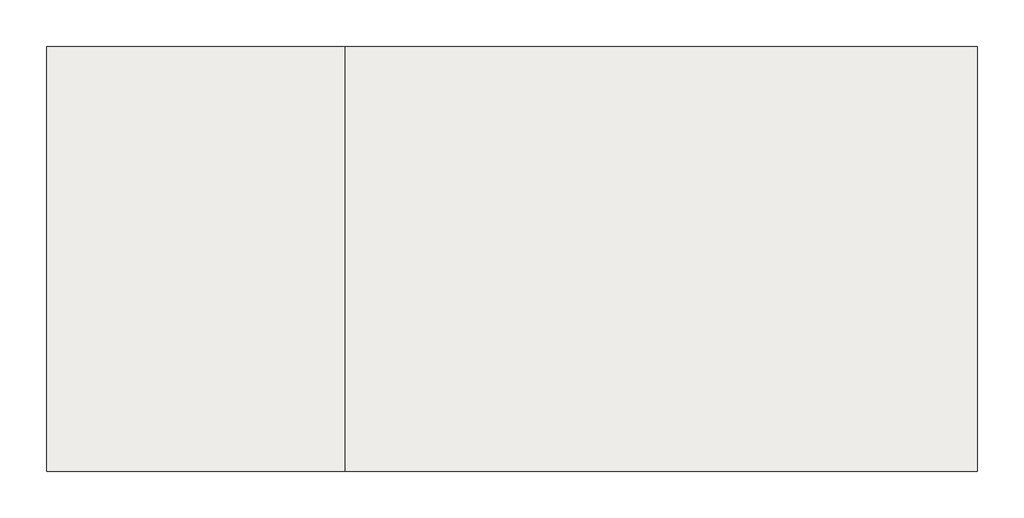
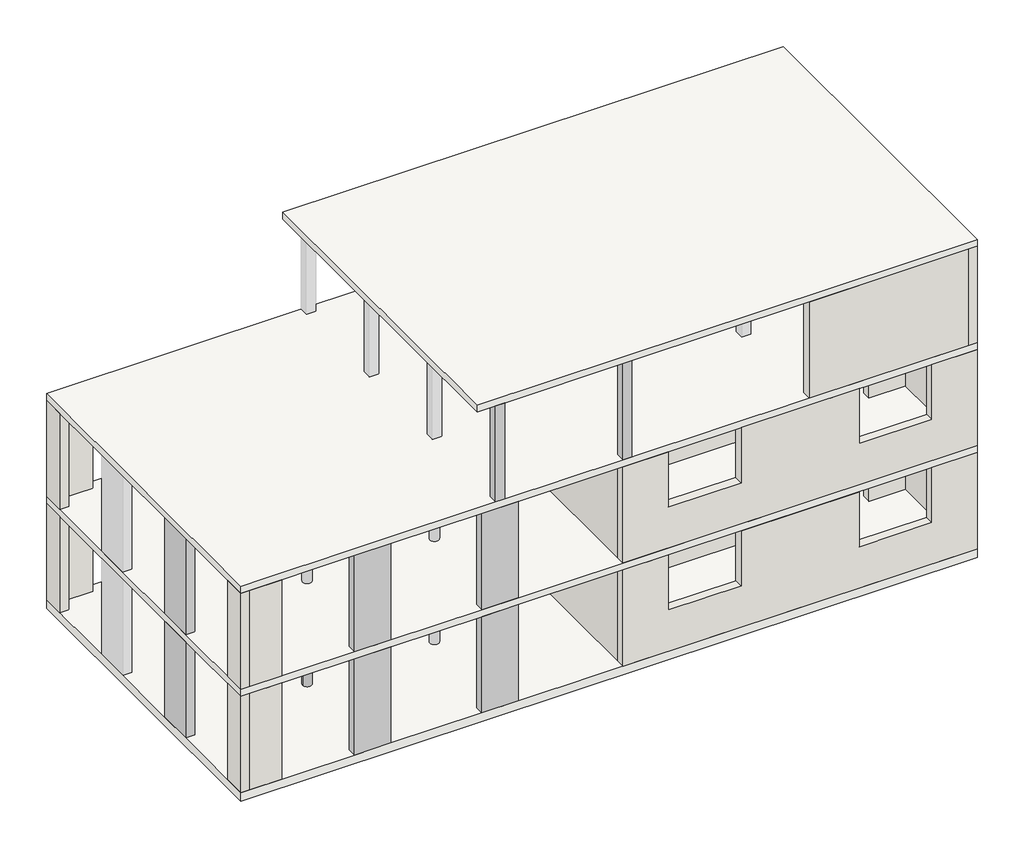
# Not in any storey, part 1 of 2: 25 walls, 9 columns, 4 slabs.
"""IFC4 building model written with IfcOpenShell, lengths in millimetres."""

from ifc_helpers import new_model, si_unit, point, frame, frame_2d, origin, origin_with_axes, place, context, project, spatial, polyline, circle_curve, trimmed, segment, composite_curve, outline, extrude, faceted_brep, element, save

model = new_model("IFC4")

# Units and contexts
model_context = context("Model", 3, world=origin())
ifc_project = project(units=[si_unit("LENGTHUNIT", "METRE", prefix="MILLI")], contexts=[model_context])

# Site, building
site = spatial("IfcSite", under=ifc_project)
building = spatial("IfcBuilding", under=site)

# Columns
placement = place(None, origin())
element("IfcColumn", 1, ObjectType="STB Stütze - rund : STB ø250", at=placement, inside=building, context=model_context, shape_type="SweptSolid", body=[
    extrude(outline(composite_curve([segment(trimmed(circle_curve(frame_2d((3500.0, -6000.0)), 125.0), [point((3375.0, -6000.0))], [point((3625.0, -6000.0))], False, "CARTESIAN"), True, "CONTINUOUS"), segment(trimmed(circle_curve(frame_2d((3500.0, -6000.0)), 125.0), [point((3625.0, -6000.0))], [point((3375.0, -6000.0))], False, "CARTESIAN"), True, "CONTINUOUS")], self_intersect=False)), origin_with_axes(), (0.0, 0.0, 1.0), 2800.0),
])
element("IfcColumn", 2, ObjectType="STB Stütze - rechteckig : STB 1000 x 250", at=placement, inside=building, context=model_context, shape_type="SweptSolid", body=[
    extrude(outline(polyline([(-125.0, -5500.0), (125.0, -5500.0), (125.0, -6500.0), (-125.0, -6500.0), (-125.0, -5500.0)])), origin_with_axes(), (0.0, 0.0, 1.0), 2800.0),
])
element("IfcColumn", 3, ObjectType="STB Stütze - rechteckig : STB 1000 x 250", at=placement, inside=building, context=model_context, shape_type="SweptSolid", body=[
    extrude(outline(polyline([(3000.0, -9125.0), (3000.0, -8875.0), (4000.0, -8875.0), (4000.0, -9125.0), (3000.0, -9125.0)])), origin_with_axes(), (0.0, 0.0, 1.0), 2800.0),
])
element("IfcColumn", 4, ObjectType="STB Stütze - rechteckig : STB 1000 x 250", at=placement, inside=building, context=model_context, shape_type="SweptSolid", body=[
    extrude(outline(polyline([(6500.0, -9125.0), (6500.0, -8875.0), (7500.0, -8875.0), (7500.0, -9125.0), (6500.0, -9125.0)])), origin_with_axes(), (0.0, 0.0, 1.0), 2800.0),
])
element("IfcColumn", 5, ObjectType="STB Stütze - rechteckig : STB 1000 x 250", at=placement, inside=building, context=model_context, shape_type="SweptSolid", body=[
    extrude(outline(polyline([(-125.0, -5500.0), (125.0, -5500.0), (125.0, -6500.0), (-125.0, -6500.0), (-125.0, -5500.0)])), frame((0.0, 0.0, 3000.0), z_axis=(0.0, 0.0, 1.0), x_axis=(1.0, 0.0, 0.0)), (0.0, 0.0, 1.0), 2800.0),
])
element("IfcColumn", 6, ObjectType="STB Stütze - rechteckig : STB 1000 x 250", at=placement, inside=building, context=model_context, shape_type="SweptSolid", body=[
    extrude(outline(polyline([(3000.0, -9125.0), (3000.0, -8875.0), (4000.0, -8875.0), (4000.0, -9125.0), (3000.0, -9125.0)])), frame((0.0, 0.0, 3000.0), z_axis=(0.0, 0.0, 1.0), x_axis=(1.0, 0.0, 0.0)), (0.0, 0.0, 1.0), 2800.0),
])
element("IfcColumn", 7, ObjectType="STB Stütze - rechteckig : STB 1000 x 250", at=placement, inside=building, context=model_context, shape_type="SweptSolid", body=[
    extrude(outline(polyline([(6500.0, -9125.0), (6500.0, -8875.0), (7500.0, -8875.0), (7500.0, -9125.0), (6500.0, -9125.0)])), frame((0.0, 0.0, 3000.0), z_axis=(0.0, 0.0, 1.0), x_axis=(1.0, 0.0, 0.0)), (0.0, 0.0, 1.0), 2800.0),
])
element("IfcColumn", 8, ObjectType="STB Stütze - rechteckig : STB 250 x 250", at=placement, inside=building, context=model_context, shape_type="SweptSolid", body=[
    extrude(outline(polyline([(7125.0, -8875.0), (7125.0, -9125.0), (6875.0, -9125.0), (6875.0, -8875.0), (7125.0, -8875.0)])), frame((0.0, 0.0, 6000.0), z_axis=(0.0, 0.0, 1.0), x_axis=(1.0, 0.0, 0.0)), (0.0, 0.0, 1.0), 2800.0),
])
element("IfcColumn", 9, ObjectType="STB Stütze - rechteckig : STB 250 x 250", at=placement, inside=building, context=model_context, shape_type="SweptSolid", body=[
    extrude(outline(polyline([(10625.0, -8875.0), (10625.0, -9125.0), (10375.0, -9125.0), (10375.0, -8875.0), (10625.0, -8875.0)])), frame((0.0, 0.0, 6000.0), z_axis=(0.0, 0.0, 1.0), x_axis=(1.0, 0.0, 0.0)), (0.0, 0.0, 1.0), 2800.0),
])

# Slabs
element("IfcSlab", 10, ObjectType="STB 200", at=placement, inside=building, context=model_context, shape_type="Brep", body=[
    faceted_brep([(20125.0, 125.0, 2800.0), (20125.0, -9125.0, 2800.0), (7500.0, -9125.0, 2800.0), (6500.0, -9125.0, 2800.0), (4000.0, -9125.0, 2800.0), (3000.0, -9125.0, 2800.0), (-125.0, -9125.0, 2800.0), (-125.0, -6500.0, 2800.0), (-125.0, -5500.0, 2800.0), (-125.0, -3500.0, 2800.0), (-125.0, -2500.0, 2800.0), (-125.0, 125.0, 2800.0), (3000.0, 125.0, 2800.0), (4000.0, 125.0, 2800.0), (6500.0, 125.0, 2800.0), (7500.0, 125.0, 2800.0), (19875.0, -125.0, 2800.0), (16875.0, -125.0, 2800.0), (16875.0, -2325.0, 2800.0), (19875.0, -2325.0, 2800.0), (20125.0, 125.0, 3000.0), (7500.0, 125.0, 3000.0), (6500.0, 125.0, 3000.0), (4000.0, 125.0, 3000.0), (3000.0, 125.0, 3000.0), (-125.0, 125.0, 3000.0), (-125.0, -2500.0, 3000.0), (-125.0, -3500.0, 3000.0), (-125.0, -5500.0, 3000.0), (-125.0, -6500.0, 3000.0), (-125.0, -9125.0, 3000.0), (3000.0, -9125.0, 3000.0), (4000.0, -9125.0, 3000.0), (6500.0, -9125.0, 3000.0), (7500.0, -9125.0, 3000.0), (20125.0, -9125.0, 3000.0), (16875.0, -125.0, 3000.0), (19875.0, -125.0, 3000.0), (19875.0, -2325.0, 3000.0), (16875.0, -2325.0, 3000.0)], [[[0, 1, 2, 3, 4, 5, 6, 7, 8, 9, 10, 11, 12, 13, 14, 15], [16, 17, 18, 19]], [[20, 21, 22, 23, 24, 25, 26, 27, 28, 29, 30, 31, 32, 33, 34, 35], [36, 37, 38, 39]], [[1, 0, 20, 35]], [[6, 5, 4, 3, 2, 1, 35, 34, 33, 32, 31, 30]], [[11, 10, 9, 8, 7, 6, 30, 29, 28, 27, 26, 25]], [[0, 15, 14, 13, 12, 11, 25, 24, 23, 22, 21, 20]], [[16, 37, 36, 17]], [[17, 36, 39, 18]], [[18, 39, 38, 19]], [[37, 16, 19, 38]]]),
])
element("IfcSlab", 11, ObjectType="STB 200", at=placement, inside=building, context=model_context, shape_type="Brep", body=[
    faceted_brep([(20125.0, -9125.0, 5800.0), (7500.0, -9125.0, 5800.0), (6500.0, -9125.0, 5800.0), (4000.0, -9125.0, 5800.0), (3000.0, -9125.0, 5800.0), (-125.0, -9125.0, 5800.0), (-125.0, -6500.0, 5800.0), (-125.0, -5500.0, 5800.0), (-125.0, -3500.0, 5800.0), (-125.0, -2500.0, 5800.0), (-125.0, 125.0, 5800.0), (3000.0, 125.0, 5800.0), (4000.0, 125.0, 5800.0), (6500.0, 125.0, 5800.0), (7500.0, 125.0, 5800.0), (20125.0, 125.0, 5800.0), (19875.0, -125.0, 5800.0), (16875.0, -125.0, 5800.0), (16875.0, -2325.0, 5800.0), (19875.0, -2325.0, 5800.0), (-125.0, -9125.0, 6000.0), (6875.0, -9125.0, 6000.0), (7125.0, -9125.0, 6000.0), (10375.0, -9125.0, 6000.0), (10625.0, -9125.0, 6000.0), (20125.0, -9125.0, 6000.0), (20125.0, 125.0, 6000.0), (10625.0, 125.0, 6000.0), (10375.0, 125.0, 6000.0), (7125.0, 125.0, 6000.0), (6875.0, 125.0, 6000.0), (-125.0, 125.0, 6000.0), (16875.0, -125.0, 6000.0), (19875.0, -125.0, 6000.0), (19875.0, -2325.0, 6000.0), (16875.0, -2325.0, 6000.0)], [[[0, 1, 2, 3, 4, 5, 6, 7, 8, 9, 10, 11, 12, 13, 14, 15], [16, 17, 18, 19]], [[20, 21, 22, 23, 24, 25, 26, 27, 28, 29, 30, 31], [32, 33, 34, 35]], [[5, 4, 3, 2, 1, 0, 25, 24, 23, 22, 21, 20]], [[10, 9, 8, 7, 6, 5, 20, 31]], [[15, 14, 13, 12, 11, 10, 31, 30, 29, 28, 27, 26]], [[0, 15, 26, 25]], [[16, 33, 32, 17]], [[17, 32, 35, 18]], [[18, 35, 34, 19]], [[33, 16, 19, 34]]]),
])
element("IfcSlab", 12, ObjectType="STB 200", at=placement, inside=building, context=model_context, shape_type="Brep", body=[
    faceted_brep([(6375.0, 125.0, 8800.0), (6875.0, 125.0, 8800.0), (7125.0, 125.0, 8800.0), (10375.0, 125.0, 8800.0), (10625.0, 125.0, 8800.0), (20125.0, 125.0, 8800.0), (20125.0, -9125.0, 8800.0), (10625.0, -9125.0, 8800.0), (10375.0, -9125.0, 8800.0), (7125.0, -9125.0, 8800.0), (6875.0, -9125.0, 8800.0), (6375.0, -9125.0, 8800.0), (6375.0, 125.0, 9000.0), (6375.0, -9125.0, 9000.0), (20125.0, -9125.0, 9000.0), (20125.0, 125.0, 9000.0)], [[[0, 1, 2, 3, 4, 5, 6, 7, 8, 9, 10, 11]], [[12, 13, 14, 15]], [[5, 4, 3, 2, 1, 0, 12, 15]], [[6, 5, 15, 14]], [[11, 10, 9, 8, 7, 6, 14, 13]], [[0, 11, 13, 12]]]),
])
element("IfcSlab", 13, ObjectType="STB 250", at=placement, inside=building, context=model_context, shape_type="Brep", body=[
    faceted_brep([(20125.0, 125.0, -250.0), (20125.0, -9125.0, -250.0), (-125.0, -9125.0, -250.0), (-125.0, 125.0, -250.0), (20125.0, 125.0, 0.0), (7500.0, 125.0, 0.0), (6500.0, 125.0, 0.0), (4000.0, 125.0, 0.0), (3000.0, 125.0, 0.0), (-125.0, 125.0, 0.0), (-125.0, -2500.0, 0.0), (-125.0, -3500.0, 0.0), (-125.0, -5500.0, 0.0), (-125.0, -6500.0, 0.0), (-125.0, -9125.0, 0.0), (3000.0, -9125.0, 0.0), (4000.0, -9125.0, 0.0), (6500.0, -9125.0, 0.0), (7500.0, -9125.0, 0.0), (20125.0, -9125.0, 0.0)], [[[0, 1, 2, 3]], [[4, 5, 6, 7, 8, 9, 10, 11, 12, 13, 14, 15, 16, 17, 18, 19]], [[1, 0, 4, 19]], [[2, 1, 19, 18, 17, 16, 15, 14]], [[3, 2, 14, 13, 12, 11, 10, 9]], [[0, 3, 9, 8, 7, 6, 5, 4]]]),
])

# Walls
element("IfcWall", 14, ObjectType="STB 250", at=placement, inside=building, context=model_context, shape_type="SweptSolid", body=[
    extrude(outline(polyline([(1000.0, -9125.0), (125.0, -9125.0), (125.0, -8875.0), (1000.0, -8875.0), (1000.0, -9125.0)])), origin_with_axes(), (0.0, 0.0, 1.0), 2800.0),
])
element("IfcWall", 15, ObjectType="STB 250", at=placement, inside=building, context=model_context, shape_type="Brep", body=[
    faceted_brep([(125.0, -9125.0, 0.0), (125.0, -8875.0, 0.0), (125.0, -8500.0, 0.0), (125.0, -8500.0, 2800.0), (125.0, -8875.0, 2800.0), (125.0, -9125.0, 2800.0), (-125.0, -9125.0, 0.0), (-125.0, -9125.0, 2800.0), (-125.0, -8500.0, 2800.0), (-125.0, -8500.0, 0.0)], [[[0, 1, 2, 3, 4, 5]], [[6, 7, 8, 9]], [[2, 1, 0, 6, 9]], [[3, 2, 9, 8]], [[0, 5, 7, 6]], [[5, 4, 3, 8, 7]]]),
])
element("IfcWall", 16, ObjectType="STB 250", at=placement, inside=building, context=model_context, shape_type="SweptSolid", body=[
    extrude(outline(polyline([(1000.0, -125.0), (125.0, -125.0), (125.0, 125.0), (1000.0, 125.0), (1000.0, -125.0)])), origin_with_axes(), (0.0, 0.0, 1.0), 2800.0),
])
element("IfcWall", 17, ObjectType="STB 250", at=placement, inside=building, context=model_context, shape_type="Brep", body=[
    faceted_brep([(-125.0, 125.0, 0.0), (-125.0, -500.0, 0.0), (-125.0, -500.0, 2800.0), (-125.0, 125.0, 2800.0), (125.0, 125.0, 0.0), (125.0, 125.0, 2800.0), (125.0, -125.0, 2800.0), (125.0, -500.0, 2800.0), (125.0, -500.0, 0.0), (125.0, -125.0, 0.0)], [[[0, 1, 2, 3]], [[4, 5, 6, 7, 8, 9]], [[1, 0, 4, 9, 8]], [[2, 1, 8, 7]], [[0, 3, 5, 4]], [[3, 2, 7, 6, 5]]]),
])
element("IfcWall", 18, ObjectType="STB 250", at=placement, inside=building, context=model_context, shape_type="Brep", body=[
    faceted_brep([(10375.0, -9125.0, 0.0), (20125.0, -9125.0, 0.0), (20125.0, -9125.0, 2800.0), (18875.0, -9125.0, 2800.0), (18875.0, -9125.0, 1200.0), (16875.0, -9125.0, 1200.0), (16875.0, -9125.0, 2800.0), (13625.0, -9125.0, 2800.0), (13625.0, -9125.0, 1200.0), (11625.0, -9125.0, 1200.0), (11625.0, -9125.0, 2800.0), (10375.0, -9125.0, 2800.0), (20125.0, -8875.0, 0.0), (19875.0, -8875.0, 0.0), (10625.0, -8875.0, 0.0), (10375.0, -8875.0, 0.0), (10375.0, -8875.0, 2800.0), (10625.0, -8875.0, 2800.0), (11625.0, -8875.0, 2800.0), (11625.0, -8875.0, 1200.0), (13625.0, -8875.0, 1200.0), (13625.0, -8875.0, 2800.0), (16875.0, -8875.0, 2800.0), (16875.0, -8875.0, 1200.0), (18875.0, -8875.0, 1200.0), (18875.0, -8875.0, 2800.0), (19875.0, -8875.0, 2800.0), (20125.0, -8875.0, 2800.0)], [[[0, 1, 2, 3, 4, 5, 6, 7, 8, 9, 10, 11]], [[12, 13, 14, 15, 16, 17, 18, 19, 20, 21, 22, 23, 24, 25, 26, 27]], [[1, 0, 15, 14, 13, 12]], [[2, 1, 12, 27]], [[0, 11, 16, 15]], [[2, 27, 26, 25, 3]], [[16, 11, 10, 18, 17]], [[6, 22, 21, 7]], [[24, 4, 3, 25]], [[4, 24, 23, 5]], [[5, 23, 22, 6]], [[20, 8, 7, 21]], [[8, 20, 19, 9]], [[9, 19, 18, 10]]]),
])
element("IfcWall", 19, ObjectType="STB 250", at=placement, inside=building, context=model_context, shape_type="Brep", body=[
    faceted_brep([(20125.0, -8875.0, 2800.0), (20125.0, -8875.0, 0.0), (20125.0, -5100.0, 0.0), (20125.0, -5100.0, 2600.0), (20125.0, -3900.0, 2600.0), (20125.0, -3900.0, 0.0), (20125.0, 125.0, 0.0), (20125.0, 125.0, 2800.0), (19875.0, -8875.0, 0.0), (19875.0, -8875.0, 2800.0), (19875.0, -6125.0, 2800.0), (19875.0, -5875.0, 2800.0), (19875.0, -3125.0, 2800.0), (19875.0, -2875.0, 2800.0), (19875.0, -125.0, 2800.0), (19875.0, 125.0, 2800.0), (19875.0, 125.0, 0.0), (19875.0, -125.0, 0.0), (19875.0, -2875.0, 0.0), (19875.0, -3125.0, 0.0), (19875.0, -3900.0, 0.0), (19875.0, -3900.0, 2600.0), (19875.0, -5100.0, 2600.0), (19875.0, -5100.0, 0.0), (19875.0, -5875.0, 0.0), (19875.0, -6125.0, 0.0)], [[[0, 1, 2, 3, 4, 5, 6, 7]], [[8, 9, 10, 11, 12, 13, 14, 15, 16, 17, 18, 19, 20, 21, 22, 23, 24, 25]], [[1, 8, 25, 24, 23, 2]], [[16, 6, 5, 20, 19, 18, 17]], [[1, 0, 9, 8]], [[7, 6, 16, 15]], [[4, 21, 20, 5]], [[22, 3, 2, 23]], [[21, 4, 3, 22]], [[0, 7, 15, 14, 13, 12, 11, 10, 9]]]),
])
element("IfcWall", 20, ObjectType="STB 250", at=placement, inside=building, context=model_context, shape_type="Brep", body=[
    faceted_brep([(19875.0, 125.0, 0.0), (10375.0, 125.0, 0.0), (10375.0, 125.0, 2800.0), (12375.0, 125.0, 2800.0), (12375.0, 125.0, 1200.0), (14375.0, 125.0, 1200.0), (14375.0, 125.0, 2800.0), (19875.0, 125.0, 2800.0), (10375.0, -125.0, 0.0), (10625.0, -125.0, 0.0), (15375.0, -125.0, 0.0), (15625.0, -125.0, 0.0), (19875.0, -125.0, 0.0), (19875.0, -125.0, 2800.0), (15625.0, -125.0, 2800.0), (15375.0, -125.0, 2800.0), (14375.0, -125.0, 2800.0), (14375.0, -125.0, 1200.0), (12375.0, -125.0, 1200.0), (12375.0, -125.0, 2800.0), (10625.0, -125.0, 2800.0), (10375.0, -125.0, 2800.0)], [[[0, 1, 2, 3, 4, 5, 6, 7]], [[8, 9, 10, 11, 12, 13, 14, 15, 16, 17, 18, 19, 20, 21]], [[1, 0, 12, 11, 10, 9, 8]], [[0, 7, 13, 12]], [[2, 1, 8, 21]], [[2, 21, 20, 19, 3]], [[13, 7, 6, 16, 15, 14]], [[5, 17, 16, 6]], [[17, 5, 4, 18]], [[18, 4, 3, 19]]]),
])
element("IfcWall", 21, ObjectType="STB 250", at=placement, inside=building, context=model_context, shape_type="Brep", body=[
    faceted_brep([(10375.0, -8875.0, 0.0), (10375.0, -8875.0, 2800.0), (10375.0, -125.0, 2800.0), (10375.0, -125.0, 0.0), (10375.0, -3900.0, 0.0), (10375.0, -3900.0, 2600.0), (10375.0, -5100.0, 2600.0), (10375.0, -5100.0, 0.0), (10625.0, -8875.0, 2800.0), (10625.0, -8875.0, 0.0), (10625.0, -6125.0, 0.0), (10625.0, -5875.0, 0.0), (10625.0, -5100.0, 0.0), (10625.0, -5100.0, 2600.0), (10625.0, -3900.0, 2600.0), (10625.0, -3900.0, 0.0), (10625.0, -3125.0, 0.0), (10625.0, -2875.0, 0.0), (10625.0, -125.0, 0.0), (10625.0, -125.0, 2800.0), (10625.0, -2875.0, 2800.0), (10625.0, -3125.0, 2800.0), (10625.0, -5875.0, 2800.0), (10625.0, -6125.0, 2800.0)], [[[0, 1, 2, 3, 4, 5, 6, 7]], [[8, 9, 10, 11, 12, 13, 14, 15, 16, 17, 18, 19, 20, 21, 22, 23]], [[3, 18, 17, 16, 15, 4]], [[9, 0, 7, 12, 11, 10]], [[1, 0, 9, 8]], [[3, 2, 19, 18]], [[14, 5, 4, 15]], [[6, 13, 12, 7]], [[5, 14, 13, 6]], [[2, 1, 8, 23, 22, 21, 20, 19]]]),
])
element("IfcWall", 22, ObjectType="STB 250", at=placement, inside=building, context=model_context, shape_type="Brep", body=[
    faceted_brep([(19875.0, -3125.0, 0.0), (19875.0, -3125.0, 2800.0), (10625.0, -3125.0, 2800.0), (10625.0, -3125.0, 0.0), (15875.0, -3125.0, 0.0), (15875.0, -3125.0, 2600.0), (16875.0, -3125.0, 2600.0), (16875.0, -3125.0, 0.0), (19875.0, -2875.0, 2800.0), (19875.0, -2875.0, 0.0), (16875.0, -2875.0, 0.0), (16875.0, -2875.0, 2600.0), (15875.0, -2875.0, 2600.0), (15875.0, -2875.0, 0.0), (15625.0, -2875.0, 0.0), (15375.0, -2875.0, 0.0), (10625.0, -2875.0, 0.0), (10625.0, -2875.0, 2800.0), (15375.0, -2875.0, 2800.0), (15625.0, -2875.0, 2800.0)], [[[0, 1, 2, 3, 4, 5, 6, 7]], [[8, 9, 10, 11, 12, 13, 14, 15, 16, 17, 18, 19]], [[3, 16, 15, 14, 13, 4]], [[9, 0, 7, 10]], [[1, 0, 9, 8]], [[3, 2, 17, 16]], [[12, 5, 4, 13]], [[6, 11, 10, 7]], [[5, 12, 11, 6]], [[2, 1, 8, 19, 18, 17]]]),
])
element("IfcWall", 23, ObjectType="STB 250", at=placement, inside=building, context=model_context, shape_type="SweptSolid", body=[
    extrude(outline(polyline([(0.0, 19875.0), (2800.0, 19875.0), (2800.0, 10625.0), (0.0, 10625.0), (0.0, 11625.0), (2600.0, 11625.0), (2600.0, 12625.0), (0.0, 12625.0), (0.0, 17875.0), (2600.0, 17875.0), (2600.0, 18875.0), (0.0, 18875.0), (0.0, 19875.0)])), frame((0.0, -6125.0, 0.0), z_axis=(0.0, 1.0, 0.0), x_axis=(0.0, 0.0, 1.0)), (0.0, 0.0, 1.0), 250.0),
])
element("IfcWall", 24, ObjectType="STB 250", at=placement, inside=building, context=model_context, shape_type="SweptSolid", body=[
    extrude(outline(polyline([(-125.0, 2800.0), (-125.0, 0.0), (-325.0, 0.0), (-325.0, 2600.0), (-1325.0, 2600.0), (-1325.0, 0.0), (-2875.0, 0.0), (-2875.0, 2800.0), (-125.0, 2800.0)])), frame((15375.0, 0.0, 0.0), z_axis=(1.0, 0.0, 0.0), x_axis=(0.0, 1.0, 0.0)), (0.0, 0.0, 1.0), 250.0),
])
element("IfcWall", 25, ObjectType="STB 250", at=placement, inside=building, context=model_context, shape_type="SweptSolid", body=[
    extrude(outline(polyline([(1000.0, -9125.0), (125.0, -9125.0), (125.0, -8875.0), (1000.0, -8875.0), (1000.0, -9125.0)])), frame((0.0, 0.0, 3000.0), z_axis=(0.0, 0.0, 1.0), x_axis=(1.0, 0.0, 0.0)), (0.0, 0.0, 1.0), 2800.0),
])
element("IfcWall", 26, ObjectType="STB 250", at=placement, inside=building, context=model_context, shape_type="Brep", body=[
    faceted_brep([(125.0, -9125.0, 3000.0), (125.0, -8875.0, 3000.0), (125.0, -8500.0, 3000.0), (125.0, -8500.0, 5800.0), (125.0, -8875.0, 5800.0), (125.0, -9125.0, 5800.0), (-125.0, -9125.0, 3000.0), (-125.0, -9125.0, 5800.0), (-125.0, -8500.0, 5800.0), (-125.0, -8500.0, 3000.0)], [[[0, 1, 2, 3, 4, 5]], [[6, 7, 8, 9]], [[2, 1, 0, 6, 9]], [[3, 2, 9, 8]], [[0, 5, 7, 6]], [[5, 4, 3, 8, 7]]]),
])
element("IfcWall", 27, ObjectType="STB 250", at=placement, inside=building, context=model_context, shape_type="SweptSolid", body=[
    extrude(outline(polyline([(1000.0, -125.0), (125.0, -125.0), (125.0, 125.0), (1000.0, 125.0), (1000.0, -125.0)])), frame((0.0, 0.0, 3000.0), z_axis=(0.0, 0.0, 1.0), x_axis=(1.0, 0.0, 0.0)), (0.0, 0.0, 1.0), 2800.0),
])
element("IfcWall", 28, ObjectType="STB 250", at=placement, inside=building, context=model_context, shape_type="Brep", body=[
    faceted_brep([(-125.0, 125.0, 3000.0), (-125.0, -500.0, 3000.0), (-125.0, -500.0, 5800.0), (-125.0, 125.0, 5800.0), (125.0, 125.0, 3000.0), (125.0, 125.0, 5800.0), (125.0, -125.0, 5800.0), (125.0, -500.0, 5800.0), (125.0, -500.0, 3000.0), (125.0, -125.0, 3000.0)], [[[0, 1, 2, 3]], [[4, 5, 6, 7, 8, 9]], [[1, 0, 4, 9, 8]], [[2, 1, 8, 7]], [[0, 3, 5, 4]], [[3, 2, 7, 6, 5]]]),
])
element("IfcWall", 29, ObjectType="STB 250", at=placement, inside=building, context=model_context, shape_type="Brep", body=[
    faceted_brep([(10375.0, -9125.0, 3000.0), (20125.0, -9125.0, 3000.0), (20125.0, -9125.0, 5800.0), (18875.0, -9125.0, 5800.0), (18875.0, -9125.0, 4200.0), (16875.0, -9125.0, 4200.0), (16875.0, -9125.0, 5800.0), (13625.0, -9125.0, 5800.0), (13625.0, -9125.0, 4200.0), (11625.0, -9125.0, 4200.0), (11625.0, -9125.0, 5800.0), (10375.0, -9125.0, 5800.0), (20125.0, -8875.0, 3000.0), (19875.0, -8875.0, 3000.0), (10625.0, -8875.0, 3000.0), (10375.0, -8875.0, 3000.0), (10375.0, -8875.0, 5800.0), (10625.0, -8875.0, 5800.0), (11625.0, -8875.0, 5800.0), (11625.0, -8875.0, 4200.0), (13625.0, -8875.0, 4200.0), (13625.0, -8875.0, 5800.0), (16875.0, -8875.0, 5800.0), (16875.0, -8875.0, 4200.0), (18875.0, -8875.0, 4200.0), (18875.0, -8875.0, 5800.0), (19875.0, -8875.0, 5800.0), (20125.0, -8875.0, 5800.0)], [[[0, 1, 2, 3, 4, 5, 6, 7, 8, 9, 10, 11]], [[12, 13, 14, 15, 16, 17, 18, 19, 20, 21, 22, 23, 24, 25, 26, 27]], [[1, 0, 15, 14, 13, 12]], [[2, 1, 12, 27]], [[0, 11, 16, 15]], [[2, 27, 26, 25, 3]], [[16, 11, 10, 18, 17]], [[21, 7, 6, 22]], [[20, 8, 7, 21]], [[8, 20, 19, 9]], [[9, 19, 18, 10]], [[24, 4, 3, 25]], [[4, 24, 23, 5]], [[5, 23, 22, 6]]]),
])
element("IfcWall", 30, ObjectType="STB 250", at=placement, inside=building, context=model_context, shape_type="Brep", body=[
    faceted_brep([(20125.0, -8875.0, 5800.0), (20125.0, -8875.0, 3000.0), (20125.0, -5100.0, 3000.0), (20125.0, -5100.0, 5600.0), (20125.0, -3900.0, 5600.0), (20125.0, -3900.0, 3000.0), (20125.0, 125.0, 3000.0), (20125.0, 125.0, 5800.0), (19875.0, -8875.0, 3000.0), (19875.0, -8875.0, 5800.0), (19875.0, -6125.0, 5800.0), (19875.0, -5875.0, 5800.0), (19875.0, -3125.0, 5800.0), (19875.0, -2875.0, 5800.0), (19875.0, -125.0, 5800.0), (19875.0, 125.0, 5800.0), (19875.0, 125.0, 3000.0), (19875.0, -125.0, 3000.0), (19875.0, -2875.0, 3000.0), (19875.0, -3125.0, 3000.0), (19875.0, -3900.0, 3000.0), (19875.0, -3900.0, 5600.0), (19875.0, -5100.0, 5600.0), (19875.0, -5100.0, 3000.0), (19875.0, -5875.0, 3000.0), (19875.0, -6125.0, 3000.0)], [[[0, 1, 2, 3, 4, 5, 6, 7]], [[8, 9, 10, 11, 12, 13, 14, 15, 16, 17, 18, 19, 20, 21, 22, 23, 24, 25]], [[1, 8, 25, 24, 23, 2]], [[16, 6, 5, 20, 19, 18, 17]], [[1, 0, 9, 8]], [[7, 6, 16, 15]], [[4, 21, 20, 5]], [[22, 3, 2, 23]], [[21, 4, 3, 22]], [[0, 7, 15, 14, 13, 12, 11, 10, 9]]]),
])
element("IfcWall", 31, ObjectType="STB 250", at=placement, inside=building, context=model_context, shape_type="Brep", body=[
    faceted_brep([(19875.0, 125.0, 3000.0), (10375.0, 125.0, 3000.0), (10375.0, 125.0, 5800.0), (12375.0, 125.0, 5800.0), (12375.0, 125.0, 4200.0), (14375.0, 125.0, 4200.0), (14375.0, 125.0, 5800.0), (19875.0, 125.0, 5800.0), (10375.0, -125.0, 3000.0), (10625.0, -125.0, 3000.0), (15375.0, -125.0, 3000.0), (15625.0, -125.0, 3000.0), (19875.0, -125.0, 3000.0), (19875.0, -125.0, 5800.0), (15625.0, -125.0, 5800.0), (15375.0, -125.0, 5800.0), (14375.0, -125.0, 5800.0), (14375.0, -125.0, 4200.0), (12375.0, -125.0, 4200.0), (12375.0, -125.0, 5800.0), (10625.0, -125.0, 5800.0), (10375.0, -125.0, 5800.0)], [[[0, 1, 2, 3, 4, 5, 6, 7]], [[8, 9, 10, 11, 12, 13, 14, 15, 16, 17, 18, 19, 20, 21]], [[1, 0, 12, 11, 10, 9, 8]], [[0, 7, 13, 12]], [[2, 1, 8, 21]], [[2, 21, 20, 19, 3]], [[13, 7, 6, 16, 15, 14]], [[5, 17, 16, 6]], [[17, 5, 4, 18]], [[18, 4, 3, 19]]]),
])
element("IfcWall", 32, ObjectType="STB 250", at=placement, inside=building, context=model_context, shape_type="Brep", body=[
    faceted_brep([(10375.0, -8875.0, 3000.0), (10375.0, -8875.0, 5800.0), (10375.0, -125.0, 5800.0), (10375.0, -125.0, 3000.0), (10375.0, -3900.0, 3000.0), (10375.0, -3900.0, 5600.0), (10375.0, -5100.0, 5600.0), (10375.0, -5100.0, 3000.0), (10625.0, -8875.0, 5800.0), (10625.0, -8875.0, 3000.0), (10625.0, -6125.0, 3000.0), (10625.0, -5875.0, 3000.0), (10625.0, -5100.0, 3000.0), (10625.0, -5100.0, 5600.0), (10625.0, -3900.0, 5600.0), (10625.0, -3900.0, 3000.0), (10625.0, -3125.0, 3000.0), (10625.0, -2875.0, 3000.0), (10625.0, -125.0, 3000.0), (10625.0, -125.0, 5800.0), (10625.0, -2875.0, 5800.0), (10625.0, -3125.0, 5800.0), (10625.0, -5875.0, 5800.0), (10625.0, -6125.0, 5800.0)], [[[0, 1, 2, 3, 4, 5, 6, 7]], [[8, 9, 10, 11, 12, 13, 14, 15, 16, 17, 18, 19, 20, 21, 22, 23]], [[3, 18, 17, 16, 15, 4]], [[9, 0, 7, 12, 11, 10]], [[1, 0, 9, 8]], [[3, 2, 19, 18]], [[14, 5, 4, 15]], [[6, 13, 12, 7]], [[5, 14, 13, 6]], [[2, 1, 8, 23, 22, 21, 20, 19]]]),
])
element("IfcWall", 33, ObjectType="STB 250", at=placement, inside=building, context=model_context, shape_type="Brep", body=[
    faceted_brep([(19875.0, -3125.0, 3000.0), (19875.0, -3125.0, 5800.0), (10625.0, -3125.0, 5800.0), (10625.0, -3125.0, 3000.0), (15875.0, -3125.0, 3000.0), (15875.0, -3125.0, 5600.0), (16875.0, -3125.0, 5600.0), (16875.0, -3125.0, 3000.0), (19875.0, -2875.0, 5800.0), (19875.0, -2875.0, 3000.0), (16875.0, -2875.0, 3000.0), (16875.0, -2875.0, 5600.0), (15875.0, -2875.0, 5600.0), (15875.0, -2875.0, 3000.0), (15625.0, -2875.0, 3000.0), (15375.0, -2875.0, 3000.0), (10625.0, -2875.0, 3000.0), (10625.0, -2875.0, 5800.0), (15375.0, -2875.0, 5800.0), (15625.0, -2875.0, 5800.0)], [[[0, 1, 2, 3, 4, 5, 6, 7]], [[8, 9, 10, 11, 12, 13, 14, 15, 16, 17, 18, 19]], [[3, 16, 15, 14, 13, 4]], [[9, 0, 7, 10]], [[1, 0, 9, 8]], [[3, 2, 17, 16]], [[12, 5, 4, 13]], [[6, 11, 10, 7]], [[5, 12, 11, 6]], [[2, 1, 8, 19, 18, 17]]]),
])
element("IfcWall", 34, ObjectType="STB 250", at=placement, inside=building, context=model_context, shape_type="SweptSolid", body=[
    extrude(outline(polyline([(3000.0, 19875.0), (5800.0, 19875.0), (5800.0, 10625.0), (3000.0, 10625.0), (3000.0, 11625.0), (5600.0, 11625.0), (5600.0, 12625.0), (3000.0, 12625.0), (3000.0, 17875.0), (5600.0, 17875.0), (5600.0, 18875.0), (3000.0, 18875.0), (3000.0, 19875.0)])), frame((0.0, -6125.0, 0.0), z_axis=(0.0, 1.0, 0.0), x_axis=(0.0, 0.0, 1.0)), (0.0, 0.0, 1.0), 250.0),
])
element("IfcWall", 35, ObjectType="STB 250", at=placement, inside=building, context=model_context, shape_type="SweptSolid", body=[
    extrude(outline(polyline([(-125.0, 5800.0), (-125.0, 3000.0), (-325.0, 3000.0), (-325.0, 5600.0), (-1325.0, 5600.0), (-1325.0, 3000.0), (-2875.0, 3000.0), (-2875.0, 5800.0), (-125.0, 5800.0)])), frame((15375.0, 0.0, 0.0), z_axis=(1.0, 0.0, 0.0), x_axis=(0.0, 1.0, 0.0)), (0.0, 0.0, 1.0), 250.0),
])
element("IfcWall", 36, ObjectType="STB 250", at=placement, inside=building, context=model_context, shape_type="Brep", body=[
    faceted_brep([(15500.0, -125.0, 6000.0), (19875.0, -125.0, 6000.0), (20125.0, -125.0, 6000.0), (20125.0, -125.0, 8800.0), (19875.0, -125.0, 8800.0), (15500.0, -125.0, 8800.0), (15500.0, 125.0, 6000.0), (15500.0, 125.0, 8800.0), (20125.0, 125.0, 8800.0), (20125.0, 125.0, 6000.0)], [[[0, 1, 2, 3, 4, 5]], [[6, 7, 8, 9]], [[2, 1, 0, 6, 9]], [[0, 5, 7, 6]], [[3, 2, 9, 8]], [[5, 4, 3, 8, 7]]]),
])
element("IfcWall", 37, ObjectType="STB 250", at=placement, inside=building, context=model_context, shape_type="Brep", body=[
    faceted_brep([(19875.0, -125.0, 6000.0), (19875.0, -8875.0, 6000.0), (19875.0, -9125.0, 6000.0), (19875.0, -9125.0, 8800.0), (19875.0, -8875.0, 8800.0), (19875.0, -125.0, 8800.0), (20125.0, -125.0, 6000.0), (20125.0, -125.0, 8800.0), (20125.0, -9125.0, 8800.0), (20125.0, -9125.0, 6000.0)], [[[0, 1, 2, 3, 4, 5]], [[6, 7, 8, 9]], [[2, 1, 0, 6, 9]], [[0, 5, 7, 6]], [[3, 2, 9, 8]], [[5, 4, 3, 8, 7]]]),
])
element("IfcWall", 38, ObjectType="STB 250", at=placement, inside=building, context=model_context, shape_type="SweptSolid", body=[
    extrude(outline(polyline([(15500.0, -8875.0), (19875.0, -8875.0), (19875.0, -9125.0), (15500.0, -9125.0), (15500.0, -8875.0)])), frame((0.0, 0.0, 6000.0), z_axis=(0.0, 0.0, 1.0), x_axis=(1.0, 0.0, 0.0)), (0.0, 0.0, 1.0), 2800.0),
])

save(model, "model.ifc")
